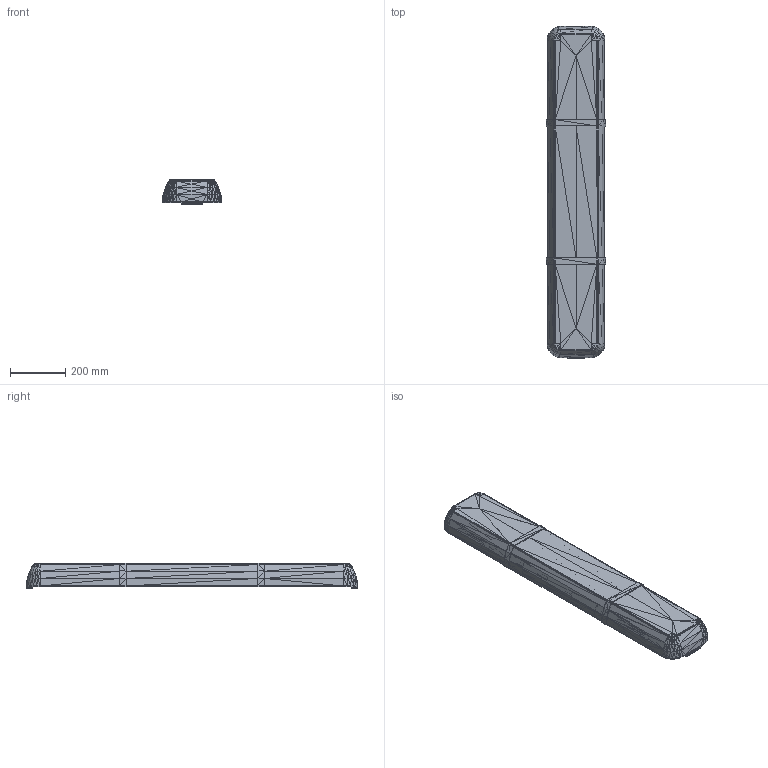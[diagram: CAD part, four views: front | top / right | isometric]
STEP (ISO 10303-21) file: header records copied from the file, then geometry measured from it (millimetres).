
FILE_DESCRIPTION(('FreeCAD Model'),'2;1');
FILE_NAME('H:/a_nauka/osoby_prywatne/06_trzebinia/2021/12marca/optima90-bp-120cm.step','2021-03-15T13:04:11',( 'Author'),(''),'Open CASCADE STEP processor 7.2','FreeCAD','Unknown' );
FILE_SCHEMA(('AUTOMOTIVE_DESIGN { 1 0 10303 214 1 1 1 1 }'));
Products named in the file (1): OPTIMA90_BP_120cm001
Bounding box: 216 x 1205 x 93.5 mm (x, y, z)
Surface area: 2164340.4 mm2 (no closed solid volume)
Topology: 0 solids, 3 shells, 13030 faces, 19556 edges, 5846 vertices
Faces by surface type: plane 13030
Entity records: 487818 total; most frequent: CARTESIAN_POINT 97132, DIRECTION 65239, LINE 39177, VECTOR 39177, ORIENTED_EDGE 39128, PCURVE 39128, DEFINITIONAL_REPRESENTATION 39128, EDGE_CURVE 19570
